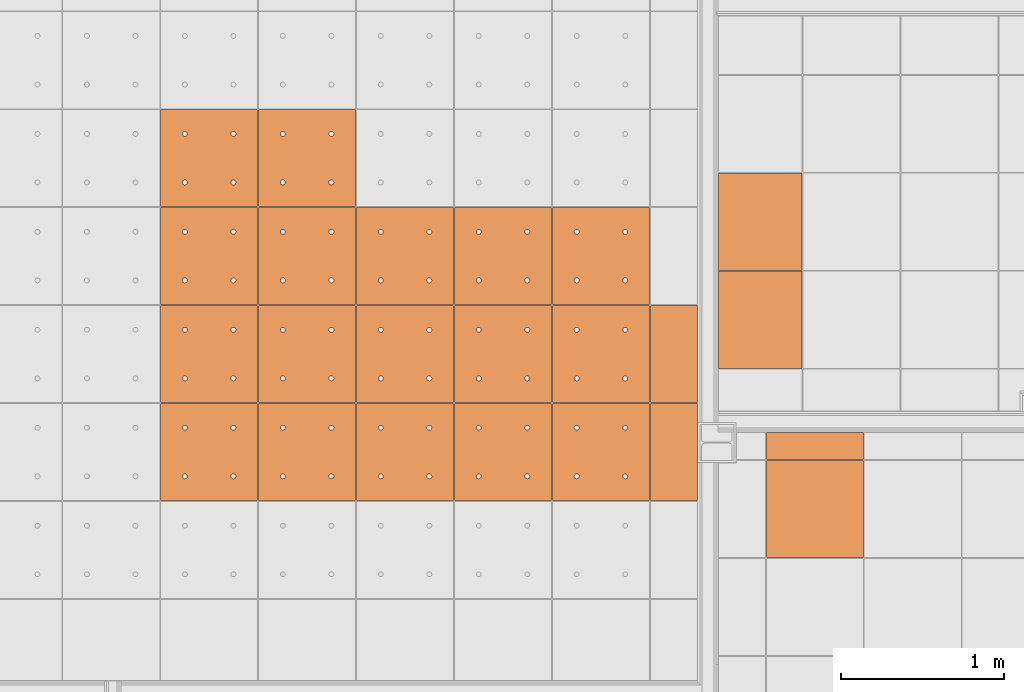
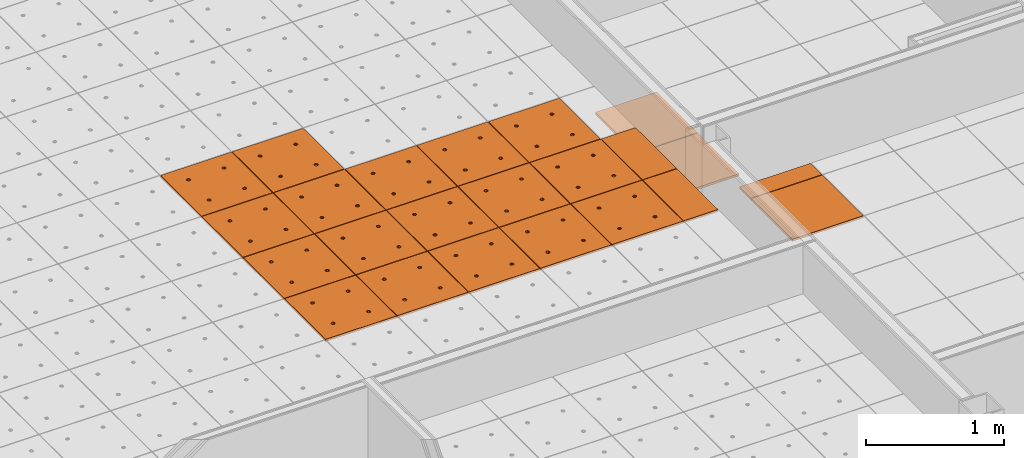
# One storey, part 282 of 338: 23 proxies, 3 elements without a shape of their own.
"""IFC2X3 building model written with IfcOpenShell, lengths in millimetres."""

from ifc_helpers import new_model, entity, si_unit, converted_unit, derived_unit, money_unit, direction, frame, origin_with_axes, place, context, subcontext, project, spatial, faceted_brep, source, transform, mapped, material, type_object, type_shapes, element, aggregate, save


model = new_model("IFC2X3")

# Units and contexts
model_context = context("Model", 3, precision=0.01, world=origin_with_axes(), true_north=direction((0.0, 1.0)))
plan_context = context("Plan", 3, precision=0.01, world=origin_with_axes(), true_north=direction((0.0, 1.0)))
body_context = subcontext(model_context, "Body", "Model", "MODEL_VIEW")
ifc_project = project(units=[si_unit("LENGTHUNIT", "METRE", prefix="MILLI"), si_unit("AREAUNIT", "SQUARE_METRE"), si_unit("VOLUMEUNIT", "CUBIC_METRE"), converted_unit("PLANEANGLEUNIT", "DEGREE", entity("IfcPlaneAngleMeasure", 0.0174532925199), si_unit("PLANEANGLEUNIT", "RADIAN"), dimensions=[0, 0, 0, 0, 0, 0, 0]), money_unit("EUR"), converted_unit("TIMEUNIT", "Year", entity("IfcTimeMeasure", 31556926.0), si_unit("TIMEUNIT", "SECOND"), dimensions=[0, 0, 1, 0, 0, 0, 0]), si_unit("MASSUNIT", "GRAM", prefix="KILO"), si_unit("THERMODYNAMICTEMPERATUREUNIT", "DEGREE_CELSIUS"), si_unit("LUMINOUSINTENSITYUNIT", "LUMEN"), si_unit("ENERGYUNIT", "JOULE", prefix="MEGA"), derived_unit("THERMALCONDUCTANCEUNIT", [(si_unit("POWERUNIT", "WATT"), 1), (si_unit("LENGTHUNIT", "METRE"), -1), (si_unit("THERMODYNAMICTEMPERATUREUNIT", "KELVIN"), -1)]), derived_unit("SPECIFICHEATCAPACITYUNIT", [(si_unit("ENERGYUNIT", "JOULE"), 1), (si_unit("MASSUNIT", "GRAM", prefix="KILO"), -1), (si_unit("THERMODYNAMICTEMPERATUREUNIT", "KELVIN"), -1)]), derived_unit("MASSDENSITYUNIT", [(si_unit("MASSUNIT", "GRAM", prefix="KILO"), 1), (si_unit("VOLUMEUNIT", "CUBIC_METRE"), -1)])], contexts=[model_context, plan_context])

# Site, building, storey
site_placement = place(None, origin_with_axes())
site = spatial("IfcSite", under=ifc_project, at=site_placement, Name="Fortuinstraat Woensdrecht", CompositionType="ELEMENT")
building_placement = place(site_placement, origin_with_axes())
building = spatial("IfcBuilding", under=site, at=building_placement, Name="IKC Fortuna", CompositionType="ELEMENT")
storey_placement = place(building_placement, origin_with_axes())
storey = spatial("IfcBuildingStorey", under=building, at=storey_placement, Name="00 begane grond", CompositionType="ELEMENT", Elevation=0.0)

# Covering, proxies
covering_type = type_object("IfcCoveringType", Name="Curtain Wall Type", PredefinedType="CEILING")
covering_1_placement = place(storey_placement, frame((15059.4416165, 34009.703821, 3210.0), z_axis=(0.0, 0.0, 1.0), x_axis=(1.0, 0.0, 0.0)))
covering_1 = element("IfcCovering", 1, at=covering_1_placement, inside=storey, type_object=covering_type, Name="45_Plafondafwerking_P01", PredefinedType="CEILING")
ifc_material = material(Name="Gipsplaat")
building_element_proxy_type_1 = type_object("IfcBuildingElementProxyType", Name="Distinct Panel 600 x 600 x 20", PredefinedType="NOTDEFINED")
shared_shape_1 = source(origin_with_axes(), body_context, "Body", "Brep", [
    faceted_brep([(2.49999999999, 2.49999999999, -10.0), (300.0, 2.49999999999, -10.0), (300.0, 2.49999999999, 10.0), (2.49999999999, 2.49999999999, 10.0), (2.49999999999, 300.0, -10.0), (2.49999999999, 597.5, -10.0), (300.0, 597.5, -10.0), (597.5, 597.5, -10.0), (597.5, 300.0, -10.0), (597.5, 2.49999999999, -10.0), (166.25, 450.06232995, -10.0), (165.79423259, 452.64711538, -10.0), (164.896546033, 455.11348892, -10.0), (163.58421608, 457.38651108, -10.0), (161.897117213, 459.39711721, -10.0), (159.886511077, 461.08421608, -10.0), (157.613488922, 462.39654603, -10.0), (155.147115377, 463.29423259, -10.0), (152.562329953, 463.75, -10.0), (149.937670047, 463.75, -10.0), (147.352884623, 463.29423259, -10.0), (144.886511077, 462.39654603, -10.0), (142.613488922, 461.08421608, -10.0), (140.602882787, 459.39711721, -10.0), (138.91578392, 457.38651108, -10.0), (137.603453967, 455.11348892, -10.0), (136.705767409, 452.64711538, -10.0), (136.25, 450.06232995, -10.0), (136.25, 448.75, -10.0), (136.25, 447.43767005, -10.0), (136.705767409, 444.85288462, -10.0), (137.603453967, 442.38651108, -10.0), (138.91578392, 440.11348892, -10.0), (140.602882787, 438.10288279, -10.0), (142.613488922, 436.41578392, -10.0), (144.886511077, 435.10345397, -10.0), (147.352884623, 434.20576741, -10.0), (149.937670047, 433.75, -10.0), (152.562329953, 433.75, -10.0), (155.147115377, 434.20576741, -10.0), (157.613488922, 435.10345397, -10.0), (159.886511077, 436.41578392, -10.0), (161.897117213, 438.10288279, -10.0), (163.58421608, 440.11348892, -10.0), (164.896546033, 442.38651108, -10.0), (165.79423259, 444.85288462, -10.0), (166.25, 447.43767005, -10.0), (463.75, 450.06232995, -10.0), (463.29423259, 452.64711538, -10.0), (462.396546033, 455.11348892, -10.0), (461.08421608, 457.38651108, -10.0), (459.397117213, 459.39711721, -10.0), (457.386511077, 461.08421608, -10.0), (455.113488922, 462.39654603, -10.0), (452.647115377, 463.29423259, -10.0), (450.062329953, 463.75, -10.0), (447.437670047, 463.75, -10.0), (444.852884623, 463.29423259, -10.0), (442.386511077, 462.39654603, -10.0), (440.113488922, 461.08421608, -10.0), (438.102882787, 459.39711721, -10.0), (436.41578392, 457.38651108, -10.0), (435.103453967, 455.11348892, -10.0), (434.205767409, 452.64711538, -10.0), (433.75, 450.06232995, -10.0), (433.75, 448.75, -10.0), (433.75, 447.43767005, -10.0), (434.205767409, 444.85288462, -10.0), (435.103453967, 442.38651108, -10.0), (436.41578392, 440.11348892, -10.0), (438.102882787, 438.10288279, -10.0), (440.113488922, 436.41578392, -10.0), (442.386511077, 435.10345397, -10.0), (444.852884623, 434.20576741, -10.0), (447.437670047, 433.75, -10.0), (450.062329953, 433.75, -10.0), (452.647115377, 434.20576741, -10.0), (455.113488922, 435.10345397, -10.0), (457.386511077, 436.41578392, -10.0), (459.397117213, 438.10288279, -10.0), (461.08421608, 440.11348892, -10.0), (462.396546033, 442.38651108, -10.0), (463.29423259, 444.85288462, -10.0), (463.75, 447.43767005, -10.0), (463.75, 152.56232995, -10.0), (463.29423259, 155.14711538, -10.0), (462.396546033, 157.61348892, -10.0), (461.08421608, 159.88651108, -10.0), (459.397117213, 161.89711721, -10.0), (457.386511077, 163.58421608, -10.0), (455.113488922, 164.89654603, -10.0), (452.647115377, 165.79423259, -10.0), (450.062329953, 166.25, -10.0), (447.437670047, 166.25, -10.0), (444.852884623, 165.79423259, -10.0), (442.386511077, 164.89654603, -10.0), (440.113488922, 163.58421608, -10.0), (438.102882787, 161.89711721, -10.0), (436.41578392, 159.88651108, -10.0), (435.103453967, 157.61348892, -10.0), (434.205767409, 155.14711538, -10.0), (433.75, 152.56232995, -10.0), (433.75, 151.25, -10.0), (433.75, 149.93767005, -10.0), (434.205767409, 147.35288462, -10.0), (435.103453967, 144.88651108, -10.0), (436.41578392, 142.61348892, -10.0), (438.102882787, 140.60288279, -10.0), (440.113488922, 138.91578392, -10.0), (442.386511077, 137.60345397, -10.0), (444.852884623, 136.70576741, -10.0), (447.437670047, 136.25, -10.0), (450.062329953, 136.25, -10.0), (452.647115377, 136.70576741, -10.0), (455.113488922, 137.60345397, -10.0), (457.386511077, 138.91578392, -10.0), (459.397117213, 140.60288279, -10.0), (461.08421608, 142.61348892, -10.0), (462.396546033, 144.88651108, -10.0), (463.29423259, 147.35288462, -10.0), (463.75, 149.93767005, -10.0), (166.25, 152.56232995, -10.0), (165.79423259, 155.14711538, -10.0), (164.896546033, 157.61348892, -10.0), (163.58421608, 159.88651108, -10.0), (161.897117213, 161.89711721, -10.0), (159.886511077, 163.58421608, -10.0), (157.613488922, 164.89654603, -10.0), (155.147115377, 165.79423259, -10.0), (152.562329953, 166.25, -10.0), (149.937670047, 166.25, -10.0), (147.352884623, 165.79423259, -10.0), (144.886511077, 164.89654603, -10.0), (142.613488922, 163.58421608, -10.0), (140.602882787, 161.89711721, -10.0), (138.91578392, 159.88651108, -10.0), (137.603453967, 157.61348892, -10.0), (136.705767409, 155.14711538, -10.0), (136.25, 152.56232995, -10.0), (136.25, 151.25, -10.0), (136.25, 149.93767005, -10.0), (136.705767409, 147.35288462, -10.0), (137.603453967, 144.88651108, -10.0), (138.91578392, 142.61348892, -10.0), (140.602882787, 140.60288279, -10.0), (142.613488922, 138.91578392, -10.0), (144.886511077, 137.60345397, -10.0), (147.352884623, 136.70576741, -10.0), (149.937670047, 136.25, -10.0), (152.562329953, 136.25, -10.0), (155.147115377, 136.70576741, -10.0), (157.613488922, 137.60345397, -10.0), (159.886511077, 138.91578392, -10.0), (161.897117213, 140.60288279, -10.0), (163.58421608, 142.61348892, -10.0), (164.896546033, 144.88651108, -10.0), (165.79423259, 147.35288462, -10.0), (166.25, 149.93767005, -10.0), (597.5, 2.49999999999, 10.0), (597.5, 300.0, 10.0), (597.5, 597.5, 10.0), (300.0, 597.5, 10.0), (2.49999999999, 597.5, 10.0), (2.49999999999, 300.0, 10.0), (166.25, 450.06232995, 10.0), (166.25, 447.43767005, 10.0), (165.79423259, 444.85288462, 10.0), (164.896546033, 442.38651108, 10.0), (163.58421608, 440.11348892, 10.0), (161.897117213, 438.10288279, 10.0), (159.886511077, 436.41578392, 10.0), (157.613488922, 435.10345397, 10.0), (155.147115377, 434.20576741, 10.0), (152.562329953, 433.75, 10.0), (149.937670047, 433.75, 10.0), (147.352884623, 434.20576741, 10.0), (144.886511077, 435.10345397, 10.0), (142.613488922, 436.41578392, 10.0), (140.602882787, 438.10288279, 10.0), (138.91578392, 440.11348892, 10.0), (137.603453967, 442.38651108, 10.0), (136.705767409, 444.85288462, 10.0), (136.25, 447.43767005, 10.0), (136.25, 448.75, 10.0), (136.25, 450.06232995, 10.0), (136.705767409, 452.64711538, 10.0), (137.603453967, 455.11348892, 10.0), (138.91578392, 457.38651108, 10.0), (140.602882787, 459.39711721, 10.0), (142.613488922, 461.08421608, 10.0), (144.886511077, 462.39654603, 10.0), (147.352884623, 463.29423259, 10.0), (149.937670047, 463.75, 10.0), (152.562329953, 463.75, 10.0), (155.147115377, 463.29423259, 10.0), (157.613488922, 462.39654603, 10.0), (159.886511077, 461.08421608, 10.0), (161.897117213, 459.39711721, 10.0), (163.58421608, 457.38651108, 10.0), (164.896546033, 455.11348892, 10.0), (165.79423259, 452.64711538, 10.0), (463.75, 450.06232995, 10.0), (463.75, 447.43767005, 10.0), (463.29423259, 444.85288462, 10.0), (462.396546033, 442.38651108, 10.0), (461.08421608, 440.11348892, 10.0), (459.397117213, 438.10288279, 10.0), (457.386511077, 436.41578392, 10.0), (455.113488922, 435.10345397, 10.0), (452.647115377, 434.20576741, 10.0), (450.062329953, 433.75, 10.0), (447.437670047, 433.75, 10.0), (444.852884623, 434.20576741, 10.0), (442.386511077, 435.10345397, 10.0), (440.113488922, 436.41578392, 10.0), (438.102882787, 438.10288279, 10.0), (436.41578392, 440.11348892, 10.0), (435.103453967, 442.38651108, 10.0), (434.205767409, 444.85288462, 10.0), (433.75, 447.43767005, 10.0), (433.75, 448.75, 10.0), (433.75, 450.06232995, 10.0), (434.205767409, 452.64711538, 10.0), (435.103453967, 455.11348892, 10.0), (436.41578392, 457.38651108, 10.0), (438.102882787, 459.39711721, 10.0), (440.113488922, 461.08421608, 10.0), (442.386511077, 462.39654603, 10.0), (444.852884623, 463.29423259, 10.0), (447.437670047, 463.75, 10.0), (450.062329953, 463.75, 10.0), (452.647115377, 463.29423259, 10.0), (455.113488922, 462.39654603, 10.0), (457.386511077, 461.08421608, 10.0), (459.397117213, 459.39711721, 10.0), (461.08421608, 457.38651108, 10.0), (462.396546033, 455.11348892, 10.0), (463.29423259, 452.64711538, 10.0), (463.75, 152.56232995, 10.0), (463.75, 149.93767005, 10.0), (463.29423259, 147.35288462, 10.0), (462.396546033, 144.88651108, 10.0), (461.08421608, 142.61348892, 10.0), (459.397117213, 140.60288279, 10.0), (457.386511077, 138.91578392, 10.0), (455.113488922, 137.60345397, 10.0), (452.647115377, 136.70576741, 10.0), (450.062329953, 136.25, 10.0), (447.437670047, 136.25, 10.0), (444.852884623, 136.70576741, 10.0), (442.386511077, 137.60345397, 10.0), (440.113488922, 138.91578392, 10.0), (438.102882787, 140.60288279, 10.0), (436.41578392, 142.61348892, 10.0), (435.103453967, 144.88651108, 10.0), (434.205767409, 147.35288462, 10.0), (433.75, 149.93767005, 10.0), (433.75, 151.25, 10.0), (433.75, 152.56232995, 10.0), (434.205767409, 155.14711538, 10.0), (435.103453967, 157.61348892, 10.0), (436.41578392, 159.88651108, 10.0), (438.102882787, 161.89711721, 10.0), (440.113488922, 163.58421608, 10.0), (442.386511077, 164.89654603, 10.0), (444.852884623, 165.79423259, 10.0), (447.437670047, 166.25, 10.0), (450.062329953, 166.25, 10.0), (452.647115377, 165.79423259, 10.0), (455.113488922, 164.89654603, 10.0), (457.386511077, 163.58421608, 10.0), (459.397117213, 161.89711721, 10.0), (461.08421608, 159.88651108, 10.0), (462.396546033, 157.61348892, 10.0), (463.29423259, 155.14711538, 10.0), (166.25, 152.56232995, 10.0), (166.25, 149.93767005, 10.0), (165.79423259, 147.35288462, 10.0), (164.896546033, 144.88651108, 10.0), (163.58421608, 142.61348892, 10.0), (161.897117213, 140.60288279, 10.0), (159.886511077, 138.91578392, 10.0), (157.613488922, 137.60345397, 10.0), (155.147115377, 136.70576741, 10.0), (152.562329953, 136.25, 10.0), (149.937670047, 136.25, 10.0), (147.352884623, 136.70576741, 10.0), (144.886511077, 137.60345397, 10.0), (142.613488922, 138.91578392, 10.0), (140.602882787, 140.60288279, 10.0), (138.91578392, 142.61348892, 10.0), (137.603453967, 144.88651108, 10.0), (136.705767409, 147.35288462, 10.0), (136.25, 149.93767005, 10.0), (136.25, 151.25, 10.0), (136.25, 152.56232995, 10.0), (136.705767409, 155.14711538, 10.0), (137.603453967, 157.61348892, 10.0), (138.91578392, 159.88651108, 10.0), (140.602882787, 161.89711721, 10.0), (142.613488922, 163.58421608, 10.0), (144.886511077, 164.89654603, 10.0), (147.352884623, 165.79423259, 10.0), (149.937670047, 166.25, 10.0), (152.562329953, 166.25, 10.0), (155.147115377, 165.79423259, 10.0), (157.613488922, 164.89654603, 10.0), (159.886511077, 163.58421608, 10.0), (161.897117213, 161.89711721, 10.0), (163.58421608, 159.88651108, 10.0), (164.896546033, 157.61348892, 10.0), (165.79423259, 155.14711538, 10.0)], [[[0, 1, 2, 3]], [[0, 4, 5, 6, 7, 8, 9, 1], [10, 11, 12, 13, 14, 15, 16, 17, 18, 19, 20, 21, 22, 23, 24, 25, 26, 27, 28, 29, 30, 31, 32, 33, 34, 35, 36, 37, 38, 39, 40, 41, 42, 43, 44, 45, 46], [47, 48, 49, 50, 51, 52, 53, 54, 55, 56, 57, 58, 59, 60, 61, 62, 63, 64, 65, 66, 67, 68, 69, 70, 71, 72, 73, 74, 75, 76, 77, 78, 79, 80, 81, 82, 83], [84, 85, 86, 87, 88, 89, 90, 91, 92, 93, 94, 95, 96, 97, 98, 99, 100, 101, 102, 103, 104, 105, 106, 107, 108, 109, 110, 111, 112, 113, 114, 115, 116, 117, 118, 119, 120], [121, 122, 123, 124, 125, 126, 127, 128, 129, 130, 131, 132, 133, 134, 135, 136, 137, 138, 139, 140, 141, 142, 143, 144, 145, 146, 147, 148, 149, 150, 151, 152, 153, 154, 155, 156, 157]], [[1, 9, 158, 2]], [[3, 2, 158, 159, 160, 161, 162, 163], [164, 165, 166, 167, 168, 169, 170, 171, 172, 173, 174, 175, 176, 177, 178, 179, 180, 181, 182, 183, 184, 185, 186, 187, 188, 189, 190, 191, 192, 193, 194, 195, 196, 197, 198, 199, 200], [201, 202, 203, 204, 205, 206, 207, 208, 209, 210, 211, 212, 213, 214, 215, 216, 217, 218, 219, 220, 221, 222, 223, 224, 225, 226, 227, 228, 229, 230, 231, 232, 233, 234, 235, 236, 237], [238, 239, 240, 241, 242, 243, 244, 245, 246, 247, 248, 249, 250, 251, 252, 253, 254, 255, 256, 257, 258, 259, 260, 261, 262, 263, 264, 265, 266, 267, 268, 269, 270, 271, 272, 273, 274], [275, 276, 277, 278, 279, 280, 281, 282, 283, 284, 285, 286, 287, 288, 289, 290, 291, 292, 293, 294, 295, 296, 297, 298, 299, 300, 301, 302, 303, 304, 305, 306, 307, 308, 309, 310, 311]], [[4, 0, 3, 163]], [[5, 4, 163, 162]], [[6, 5, 162, 161]], [[7, 6, 161, 160]], [[8, 7, 160, 159]], [[9, 8, 159, 158]], [[11, 10, 164, 200]], [[12, 11, 200, 199]], [[13, 12, 199, 198]], [[14, 13, 198, 197]], [[15, 14, 197, 196]], [[16, 15, 196, 195]], [[17, 16, 195, 194]], [[18, 17, 194, 193]], [[19, 18, 193, 192]], [[20, 19, 192, 191]], [[21, 20, 191, 190]], [[22, 21, 190, 189]], [[23, 22, 189, 188]], [[24, 23, 188, 187]], [[25, 24, 187, 186]], [[26, 25, 186, 185]], [[27, 26, 185, 184]], [[28, 27, 184, 183]], [[29, 28, 183, 182]], [[30, 29, 182, 181]], [[31, 30, 181, 180]], [[32, 31, 180, 179]], [[33, 32, 179, 178]], [[34, 33, 178, 177]], [[35, 34, 177, 176]], [[36, 35, 176, 175]], [[37, 36, 175, 174]], [[38, 37, 174, 173]], [[39, 38, 173, 172]], [[40, 39, 172, 171]], [[41, 40, 171, 170]], [[42, 41, 170, 169]], [[43, 42, 169, 168]], [[44, 43, 168, 167]], [[45, 44, 167, 166]], [[46, 45, 166, 165]], [[10, 46, 165, 164]], [[48, 47, 201, 237]], [[49, 48, 237, 236]], [[50, 49, 236, 235]], [[51, 50, 235, 234]], [[52, 51, 234, 233]], [[53, 52, 233, 232]], [[54, 53, 232, 231]], [[55, 54, 231, 230]], [[56, 55, 230, 229]], [[57, 56, 229, 228]], [[58, 57, 228, 227]], [[59, 58, 227, 226]], [[60, 59, 226, 225]], [[61, 60, 225, 224]], [[62, 61, 224, 223]], [[63, 62, 223, 222]], [[64, 63, 222, 221]], [[65, 64, 221, 220]], [[66, 65, 220, 219]], [[67, 66, 219, 218]], [[68, 67, 218, 217]], [[69, 68, 217, 216]], [[70, 69, 216, 215]], [[71, 70, 215, 214]], [[72, 71, 214, 213]], [[73, 72, 213, 212]], [[74, 73, 212, 211]], [[75, 74, 211, 210]], [[76, 75, 210, 209]], [[77, 76, 209, 208]], [[78, 77, 208, 207]], [[79, 78, 207, 206]], [[80, 79, 206, 205]], [[81, 80, 205, 204]], [[82, 81, 204, 203]], [[83, 82, 203, 202]], [[47, 83, 202, 201]], [[85, 84, 238, 274]], [[86, 85, 274, 273]], [[87, 86, 273, 272]], [[88, 87, 272, 271]], [[89, 88, 271, 270]], [[90, 89, 270, 269]], [[91, 90, 269, 268]], [[92, 91, 268, 267]], [[93, 92, 267, 266]], [[94, 93, 266, 265]], [[95, 94, 265, 264]], [[96, 95, 264, 263]], [[97, 96, 263, 262]], [[98, 97, 262, 261]], [[99, 98, 261, 260]], [[100, 99, 260, 259]], [[101, 100, 259, 258]], [[102, 101, 258, 257]], [[103, 102, 257, 256]], [[104, 103, 256, 255]], [[105, 104, 255, 254]], [[106, 105, 254, 253]], [[107, 106, 253, 252]], [[108, 107, 252, 251]], [[109, 108, 251, 250]], [[110, 109, 250, 249]], [[111, 110, 249, 248]], [[112, 111, 248, 247]], [[113, 112, 247, 246]], [[114, 113, 246, 245]], [[115, 114, 245, 244]], [[116, 115, 244, 243]], [[117, 116, 243, 242]], [[118, 117, 242, 241]], [[119, 118, 241, 240]], [[120, 119, 240, 239]], [[84, 120, 239, 238]], [[122, 121, 275, 311]], [[123, 122, 311, 310]], [[124, 123, 310, 309]], [[125, 124, 309, 308]], [[126, 125, 308, 307]], [[127, 126, 307, 306]], [[128, 127, 306, 305]], [[129, 128, 305, 304]], [[130, 129, 304, 303]], [[131, 130, 303, 302]], [[132, 131, 302, 301]], [[133, 132, 301, 300]], [[134, 133, 300, 299]], [[135, 134, 299, 298]], [[136, 135, 298, 297]], [[137, 136, 297, 296]], [[138, 137, 296, 295]], [[139, 138, 295, 294]], [[140, 139, 294, 293]], [[141, 140, 293, 292]], [[142, 141, 292, 291]], [[143, 142, 291, 290]], [[144, 143, 290, 289]], [[145, 144, 289, 288]], [[146, 145, 288, 287]], [[147, 146, 287, 286]], [[148, 147, 286, 285]], [[149, 148, 285, 284]], [[150, 149, 284, 283]], [[151, 150, 283, 282]], [[152, 151, 282, 281]], [[153, 152, 281, 280]], [[154, 153, 280, 279]], [[155, 154, 279, 278]], [[156, 155, 278, 277]], [[157, 156, 277, 276]], [[121, 157, 276, 275]]]),
])
proxy_1_placement = place(covering_1_placement, frame((4200.0, -4800.0, 0.0), z_axis=(0.0, 0.0, 1.0), x_axis=(1.0, 0.0, 0.0)))
proxy_1 = element("IfcBuildingElementProxy", 2, at=proxy_1_placement, type_object=building_element_proxy_type_1, material=ifc_material, Name="__Panel-D", context=body_context, shape_type="MappedRepresentation", body=[
    mapped(shared_shape_1, transform((300.0, 300.0, 0.0), x_axis=(-1.0, 0.0, 0.0), y_axis=(0.0, -1.0, 0.0), z_axis=(0.0, 0.0, 1.0))),
])
proxy_2_placement = place(covering_1_placement, frame((4800.0, -4800.0, 0.0), z_axis=(0.0, 0.0, 1.0), x_axis=(1.0, 0.0, 0.0)))
proxy_2 = element("IfcBuildingElementProxy", 3, at=proxy_2_placement, type_object=building_element_proxy_type_1, material=ifc_material, Name="__Panel-D", context=body_context, shape_type="MappedRepresentation", body=[
    mapped(shared_shape_1, transform((300.0, 300.0, 0.0), x_axis=(-1.0, 0.0, 0.0), y_axis=(0.0, -1.0, 0.0), z_axis=(0.0, 0.0, 1.0))),
])
proxy_3_placement = place(covering_1_placement, frame((3000.0, -4200.0, 0.0), z_axis=(0.0, 0.0, 1.0), x_axis=(1.0, 0.0, 0.0)))
proxy_3 = element("IfcBuildingElementProxy", 4, at=proxy_3_placement, type_object=building_element_proxy_type_1, material=ifc_material, Name="__Panel-D", context=body_context, shape_type="MappedRepresentation", body=[
    mapped(shared_shape_1, transform((300.0, 300.0, 0.0), x_axis=(-1.0, 0.0, 0.0), y_axis=(0.0, -1.0, 0.0), z_axis=(0.0, 0.0, 1.0))),
])
proxy_4_placement = place(covering_1_placement, frame((4200.0, -6000.0, 0.0), z_axis=(0.0, 0.0, 1.0), x_axis=(1.0, 0.0, 0.0)))
proxy_4 = element("IfcBuildingElementProxy", 5, at=proxy_4_placement, type_object=building_element_proxy_type_1, material=ifc_material, Name="__Panel-D", context=body_context, shape_type="MappedRepresentation", body=[
    mapped(shared_shape_1, transform((300.0, 300.0, 0.0), x_axis=(-1.0, 0.0, 0.0), y_axis=(0.0, -1.0, 0.0), z_axis=(0.0, 0.0, 1.0))),
])
proxy_5_placement = place(covering_1_placement, frame((3600.0, -6000.0, 0.0), z_axis=(0.0, 0.0, 1.0), x_axis=(1.0, 0.0, 0.0)))
proxy_5 = element("IfcBuildingElementProxy", 6, at=proxy_5_placement, type_object=building_element_proxy_type_1, material=ifc_material, Name="__Panel-D", context=body_context, shape_type="MappedRepresentation", body=[
    mapped(shared_shape_1, transform((300.0, 300.0, 0.0), x_axis=(-1.0, 0.0, 0.0), y_axis=(0.0, -1.0, 0.0), z_axis=(0.0, 0.0, 1.0))),
])
proxy_6_placement = place(covering_1_placement, frame((2400.0, -6000.0, 0.0), z_axis=(0.0, 0.0, 1.0), x_axis=(1.0, 0.0, 0.0)))
proxy_6 = element("IfcBuildingElementProxy", 7, at=proxy_6_placement, type_object=building_element_proxy_type_1, material=ifc_material, Name="__Panel-D", context=body_context, shape_type="MappedRepresentation", body=[
    mapped(shared_shape_1, transform((300.0, 300.0, 0.0), x_axis=(-1.0, 0.0, 0.0), y_axis=(0.0, -1.0, 0.0), z_axis=(0.0, 0.0, 1.0))),
])
proxy_7_placement = place(covering_1_placement, frame((3000.0, -6000.0, 0.0), z_axis=(0.0, 0.0, 1.0), x_axis=(1.0, 0.0, 0.0)))
proxy_7 = element("IfcBuildingElementProxy", 8, at=proxy_7_placement, type_object=building_element_proxy_type_1, material=ifc_material, Name="__Panel-D", context=body_context, shape_type="MappedRepresentation", body=[
    mapped(shared_shape_1, transform((300.0, 300.0, 0.0), x_axis=(-1.0, 0.0, 0.0), y_axis=(0.0, -1.0, 0.0), z_axis=(0.0, 0.0, 1.0))),
])
proxy_8_placement = place(covering_1_placement, frame((2400.0, -5400.0, 0.0), z_axis=(0.0, 0.0, 1.0), x_axis=(1.0, 0.0, 0.0)))
proxy_8 = element("IfcBuildingElementProxy", 9, at=proxy_8_placement, type_object=building_element_proxy_type_1, material=ifc_material, Name="__Panel-D", context=body_context, shape_type="MappedRepresentation", body=[
    mapped(shared_shape_1, transform((300.0, 300.0, 0.0), x_axis=(-1.0, 0.0, 0.0), y_axis=(0.0, -1.0, 0.0), z_axis=(0.0, 0.0, 1.0))),
])
proxy_9_placement = place(covering_1_placement, frame((4800.0, -6000.0, 0.0), z_axis=(0.0, 0.0, 1.0), x_axis=(1.0, 0.0, 0.0)))
proxy_9 = element("IfcBuildingElementProxy", 10, at=proxy_9_placement, type_object=building_element_proxy_type_1, material=ifc_material, Name="__Panel-D", context=body_context, shape_type="MappedRepresentation", body=[
    mapped(shared_shape_1, transform((300.0, 300.0, 0.0), x_axis=(-1.0, 0.0, 0.0), y_axis=(0.0, -1.0, 0.0), z_axis=(0.0, 0.0, 1.0))),
])
proxy_10_placement = place(covering_1_placement, frame((3600.0, -4800.0, 0.0), z_axis=(0.0, 0.0, 1.0), x_axis=(1.0, 0.0, 0.0)))
proxy_10 = element("IfcBuildingElementProxy", 11, at=proxy_10_placement, type_object=building_element_proxy_type_1, material=ifc_material, Name="__Panel-D", context=body_context, shape_type="MappedRepresentation", body=[
    mapped(shared_shape_1, transform((300.0, 300.0, 0.0), x_axis=(-1.0, 0.0, 0.0), y_axis=(0.0, -1.0, 0.0), z_axis=(0.0, 0.0, 1.0))),
])
proxy_11_placement = place(covering_1_placement, frame((3000.0, -4800.0, 0.0), z_axis=(0.0, 0.0, 1.0), x_axis=(1.0, 0.0, 0.0)))
proxy_11 = element("IfcBuildingElementProxy", 12, at=proxy_11_placement, type_object=building_element_proxy_type_1, material=ifc_material, Name="__Panel-D", context=body_context, shape_type="MappedRepresentation", body=[
    mapped(shared_shape_1, transform((300.0, 300.0, 0.0), x_axis=(-1.0, 0.0, 0.0), y_axis=(0.0, -1.0, 0.0), z_axis=(0.0, 0.0, 1.0))),
])
proxy_12_placement = place(covering_1_placement, frame((2400.0, -4200.0, 0.0), z_axis=(0.0, 0.0, 1.0), x_axis=(1.0, 0.0, 0.0)))
proxy_12 = element("IfcBuildingElementProxy", 13, at=proxy_12_placement, type_object=building_element_proxy_type_1, material=ifc_material, Name="__Panel-D", context=body_context, shape_type="MappedRepresentation", body=[
    mapped(shared_shape_1, transform((300.0, 300.0, 0.0), x_axis=(-1.0, 0.0, 0.0), y_axis=(0.0, -1.0, 0.0), z_axis=(0.0, 0.0, 1.0))),
])
proxy_13_placement = place(covering_1_placement, frame((2400.0, -4800.0, 0.0), z_axis=(0.0, 0.0, 1.0), x_axis=(1.0, 0.0, 0.0)))
proxy_13 = element("IfcBuildingElementProxy", 14, at=proxy_13_placement, type_object=building_element_proxy_type_1, material=ifc_material, Name="__Panel-D", context=body_context, shape_type="MappedRepresentation", body=[
    mapped(shared_shape_1, transform((300.0, 300.0, 0.0), x_axis=(-1.0, 0.0, 0.0), y_axis=(0.0, -1.0, 0.0), z_axis=(0.0, 0.0, 1.0))),
])
proxy_14_placement = place(covering_1_placement, frame((3600.0, -5400.0, 0.0), z_axis=(0.0, 0.0, 1.0), x_axis=(1.0, 0.0, 0.0)))
proxy_14 = element("IfcBuildingElementProxy", 15, at=proxy_14_placement, type_object=building_element_proxy_type_1, material=ifc_material, Name="__Panel-D", context=body_context, shape_type="MappedRepresentation", body=[
    mapped(shared_shape_1, transform((300.0, 300.0, 0.0), x_axis=(-1.0, 0.0, 0.0), y_axis=(0.0, -1.0, 0.0), z_axis=(0.0, 0.0, 1.0))),
])
proxy_15_placement = place(covering_1_placement, frame((4200.0, -5400.0, 0.0), z_axis=(0.0, 0.0, 1.0), x_axis=(1.0, 0.0, 0.0)))
proxy_15 = element("IfcBuildingElementProxy", 16, at=proxy_15_placement, type_object=building_element_proxy_type_1, material=ifc_material, Name="__Panel-D", context=body_context, shape_type="MappedRepresentation", body=[
    mapped(shared_shape_1, transform((300.0, 300.0, 0.0), x_axis=(-1.0, 0.0, 0.0), y_axis=(0.0, -1.0, 0.0), z_axis=(0.0, 0.0, 1.0))),
])
proxy_16_placement = place(covering_1_placement, frame((4800.0, -5400.0, 0.0), z_axis=(0.0, 0.0, 1.0), x_axis=(1.0, 0.0, 0.0)))
proxy_16 = element("IfcBuildingElementProxy", 17, at=proxy_16_placement, type_object=building_element_proxy_type_1, material=ifc_material, Name="__Panel-D", context=body_context, shape_type="MappedRepresentation", body=[
    mapped(shared_shape_1, transform((300.0, 300.0, 0.0), x_axis=(-1.0, 0.0, 0.0), y_axis=(0.0, -1.0, 0.0), z_axis=(0.0, 0.0, 1.0))),
])
proxy_17_placement = place(covering_1_placement, frame((3000.0, -5400.0, 0.0), z_axis=(0.0, 0.0, 1.0), x_axis=(1.0, 0.0, 0.0)))
proxy_17 = element("IfcBuildingElementProxy", 18, at=proxy_17_placement, type_object=building_element_proxy_type_1, material=ifc_material, Name="__Panel-D", context=body_context, shape_type="MappedRepresentation", body=[
    mapped(shared_shape_1, transform((300.0, 300.0, 0.0), x_axis=(-1.0, 0.0, 0.0), y_axis=(0.0, -1.0, 0.0), z_axis=(0.0, 0.0, 1.0))),
])
building_element_proxy_type_2 = type_object("IfcBuildingElementProxyType", Name="Main Panel 292 x 600 x 20", PredefinedType="NOTDEFINED")
shared_shape_2 = source(origin_with_axes(), body_context, "Body", "Brep", [
    faceted_brep([(310.00672341, 2.5, -10.0), (597.5, 2.49999999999, -10.0), (597.5, 2.49999999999, 10.0), (310.00672341, 2.5, 10.0), (310.00672341, 597.5, -10.0), (597.5, 597.5, -10.0), (597.5, 597.5, 10.0), (310.00672341, 597.5, 10.0)], [[[0, 1, 2, 3]], [[0, 4, 5, 1]], [[1, 5, 6, 2]], [[3, 2, 6, 7]], [[4, 0, 3, 7]], [[5, 4, 7, 6]]]),
])
type_shapes(building_element_proxy_type_2, [shared_shape_2])
proxy_18_placement = place(covering_1_placement, frame((5246.24670484, -6000.0, 0.0), z_axis=(0.0, 0.0, 1.0), x_axis=(1.0, 0.0, 0.0)))
proxy_18 = element("IfcBuildingElementProxy", 19, at=proxy_18_placement, type_object=building_element_proxy_type_2, material=ifc_material, Name="__Panel-D", context=body_context, shape_type="MappedRepresentation", body=[
    mapped(shared_shape_2, transform((453.753295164, 300.0, 0.0), x_axis=(-1.0, 0.0, 0.0), y_axis=(0.0, -1.0, 0.0), z_axis=(0.0, 0.0, 1.0))),
])
proxy_19_placement = place(covering_1_placement, frame((5246.24670484, -5400.0, 0.0), z_axis=(0.0, 0.0, 1.0), x_axis=(1.0, 0.0, 0.0)))
proxy_19 = element("IfcBuildingElementProxy", 20, at=proxy_19_placement, type_object=building_element_proxy_type_2, material=ifc_material, Name="__Panel-D", context=body_context, shape_type="MappedRepresentation", body=[
    mapped(shared_shape_2, transform((453.753295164, 300.0, 0.0), x_axis=(-1.0, 0.0, 0.0), y_axis=(0.0, -1.0, 0.0), z_axis=(0.0, 0.0, 1.0))),
])
aggregate(covering_1, [proxy_1, proxy_2, proxy_3, proxy_4, proxy_5, proxy_18, proxy_6, proxy_7, proxy_8, proxy_9, proxy_10, proxy_11, proxy_12, proxy_13, proxy_14, proxy_15, proxy_19, proxy_16, proxy_17])

covering_2_placement = place(storey_placement, frame((21169.4446171, 27661.0834994, 3010.0), z_axis=(0.0, 0.0, 1.0), x_axis=(1.0, 0.0, 0.0)))
covering_2 = element("IfcCovering", 21, at=covering_2_placement, inside=storey, type_object=covering_type, Name="45_Plafondafwerking_P04", PredefinedType="CEILING")
shared_shape_3 = source(origin_with_axes(), body_context, "Body", "Brep", [
    faceted_brep([(-2.49999999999, 2.5, -10.0), (-2.49999999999, 2.5, 10.0), (-597.5, 2.49999999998, 10.0), (-597.5, 2.49999999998, -10.0), (-2.50000000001, 597.5, -10.0), (-2.50000000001, 597.5, 10.0), (-597.5, 597.5, 10.0), (-597.5, 597.5, -10.0)], [[[0, 1, 2, 3]], [[4, 5, 1, 0]], [[1, 5, 6, 2]], [[3, 2, 6, 7]], [[0, 3, 7, 4]], [[7, 6, 5, 4]]]),
])
type_shapes(building_element_proxy_type_1, [shared_shape_1, shared_shape_3])
proxy_20_placement = place(covering_2_placement, origin_with_axes())
proxy_20 = element("IfcBuildingElementProxy", 22, at=proxy_20_placement, type_object=building_element_proxy_type_1, material=ifc_material, Name="__Panel-D", context=body_context, shape_type="MappedRepresentation", body=[
    mapped(shared_shape_3, transform((-300.0, 300.0, 0.0), x_axis=(-1.0, 0.0, 0.0), y_axis=(0.0, -1.0, 0.0), z_axis=(0.0, 0.0, 1.0))),
])
building_element_proxy_type_3 = type_object("IfcBuildingElementProxyType", Name="Distinct Panel 600 x 171 x 20", PredefinedType="NOTDEFINED")
shared_shape_4 = source(origin_with_axes(), body_context, "Body", "Brep", [
    faceted_brep([(-2.5, 431.18090623, -10.0), (-2.5, 431.18090623, 10.0), (-597.5, 431.18090623, 10.0), (-597.5, 431.18090623, -10.0), (-2.50000000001, 597.5, -10.0), (-2.50000000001, 597.5, 10.0), (-597.5, 597.5, 10.0), (-597.5, 597.5, -10.0)], [[[0, 1, 2, 3]], [[4, 5, 1, 0]], [[1, 5, 6, 2]], [[3, 2, 6, 7]], [[0, 3, 7, 4]], [[7, 6, 5, 4]]]),
])
type_shapes(building_element_proxy_type_3, [shared_shape_4])
proxy_21_placement = place(covering_2_placement, frame((0.0, 385.659548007, 0.0), z_axis=(0.0, 0.0, 1.0), x_axis=(1.0, 0.0, 0.0)))
proxy_21 = element("IfcBuildingElementProxy", 23, at=proxy_21_placement, type_object=building_element_proxy_type_3, material=ifc_material, Name="__Panel-D", context=body_context, shape_type="MappedRepresentation", body=[
    mapped(shared_shape_4, transform((-300.0, 514.340451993, 0.0), x_axis=(-1.0, 0.0, 0.0), y_axis=(0.0, -1.0, 0.0), z_axis=(0.0, 0.0, 1.0))),
])
aggregate(covering_2, [proxy_20, proxy_21])

covering_3_placement = place(storey_placement, frame((20835.6898058, 28819.9024925, 2810.0), z_axis=(0.0, 0.0, 1.0), x_axis=(1.0, 0.0, 0.0)))
covering_3 = element("IfcCovering", 24, at=covering_3_placement, inside=storey, type_object=covering_type, Name="45_Plafondafwerking_P02", PredefinedType="CEILING")
building_element_proxy_type_4 = type_object("IfcBuildingElementProxyType", Name="Distinct Panel 518 x 600 x 20", PredefinedType="NOTDEFINED")
shared_shape_5 = source(origin_with_axes(), body_context, "Body", "Brep", [
    faceted_brep([(2.49999714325, 2.5, -10.0), (515.009608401, 2.49999999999, -10.0), (515.009608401, 2.49999999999, 10.0), (2.49999714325, 2.5, 10.0), (2.49999714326, 597.5, -10.0), (515.009608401, 597.5, -10.0), (515.009608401, 597.5, 10.0), (2.49999714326, 597.5, 10.0)], [[[0, 1, 2, 3]], [[0, 4, 5, 1]], [[1, 5, 6, 2]], [[3, 2, 6, 7]], [[4, 0, 3, 7]], [[5, 4, 7, 6]]]),
])
type_shapes(building_element_proxy_type_4, [shared_shape_5])
proxy_22_placement = place(covering_3_placement, origin_with_axes())
proxy_22 = element("IfcBuildingElementProxy", 25, at=proxy_22_placement, type_object=building_element_proxy_type_4, material=ifc_material, Name="__Panel-D", context=body_context, shape_type="MappedRepresentation", body=[
    mapped(shared_shape_5, transform((258.754846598, 300.0, 0.0), x_axis=(-1.0, 0.0, 0.0), y_axis=(0.0, -1.0, 0.0), z_axis=(0.0, 0.0, 1.0))),
])
proxy_23_placement = place(covering_3_placement, frame((0.0, 600.0, 0.0), z_axis=(0.0, 0.0, 1.0), x_axis=(1.0, 0.0, 0.0)))
proxy_23 = element("IfcBuildingElementProxy", 26, at=proxy_23_placement, type_object=building_element_proxy_type_4, material=ifc_material, Name="__Panel-D", context=body_context, shape_type="MappedRepresentation", body=[
    mapped(shared_shape_5, transform((258.754846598, 300.0, 0.0), x_axis=(-1.0, 0.0, 0.0), y_axis=(0.0, -1.0, 0.0), z_axis=(0.0, 0.0, 1.0))),
])
aggregate(covering_3, [proxy_22, proxy_23])

save(model, "model.ifc")
